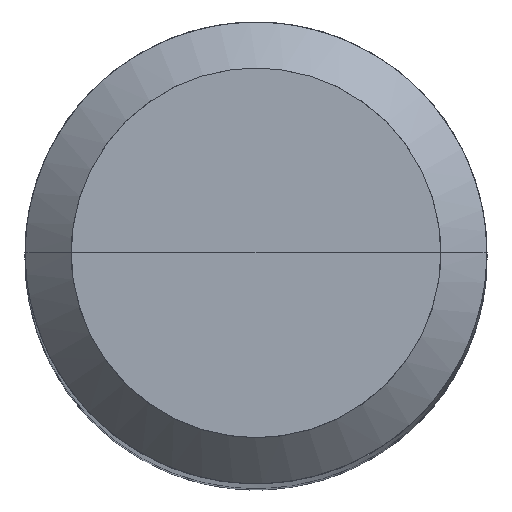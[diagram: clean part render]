
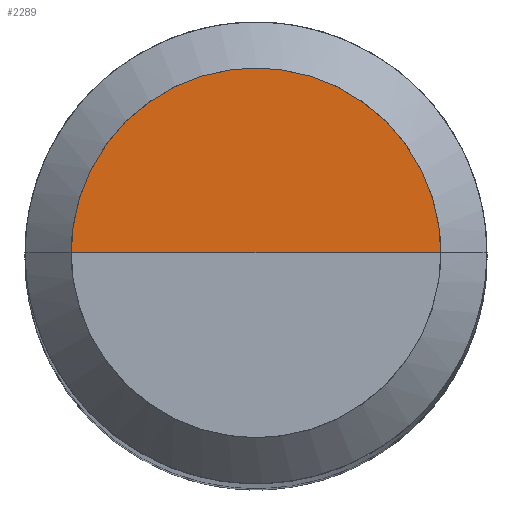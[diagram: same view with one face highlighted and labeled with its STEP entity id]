
A CAD part, top view. The second image highlights one B-rep face of the part: STEP entity #2289.
In plain terms, the highlighted free-form (B-spline) face has degree [1, 2] with [2, 5] control points.
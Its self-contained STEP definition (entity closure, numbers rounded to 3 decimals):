
#2050=CARTESIAN_POINT('',(6.4,0.0,90.0));
#2051=CARTESIAN_POINT('',(6.4,6.4,90.0));
#2052=CARTESIAN_POINT('',(0.0,6.4,90.0));
#2053=CARTESIAN_POINT('',(-6.4,6.4,90.0));
#2054=CARTESIAN_POINT('',(-6.4,0.0,90.0));
#2055=CARTESIAN_POINT('',(0.0,0.0,90.0));
#2274=(
BOUNDED_SURFACE()
B_SPLINE_SURFACE(1,2,(
(#2050,#2051,#2052,#2053,#2054),
(#2055,#2055,#2055,#2055,#2055)
), .UNSPECIFIED.,.F.,.F.,.F.)
B_SPLINE_SURFACE_WITH_KNOTS((2,2),(3,2,3),(
0.0,1.0),(
0.0,0.5,1.0), .UNSPECIFIED.)
GEOMETRIC_REPRESENTATION_ITEM()
RATIONAL_B_SPLINE_SURFACE(((1.0,0.707,1.0,0.707,1.0),
(1.0,0.707,1.0,0.707,1.0)
))
REPRESENTATION_ITEM('')
SURFACE()
);
#2275=(
BOUNDED_CURVE()
B_SPLINE_CURVE(2,(#2054,#2053,#2052,#2051,#2050),.UNSPECIFIED.,.F.,.F.)
B_SPLINE_CURVE_WITH_KNOTS((3,2,3),
(0.0,0.5,1.0),.UNSPECIFIED.)
CURVE()
GEOMETRIC_REPRESENTATION_ITEM()
RATIONAL_B_SPLINE_CURVE((1.0,0.707,1.0,0.707,1.0))
REPRESENTATION_ITEM('')
);
#2276=(
BOUNDED_CURVE()
B_SPLINE_CURVE(1,(#2050,#2055),.UNSPECIFIED.,.F.,.F.)
B_SPLINE_CURVE_WITH_KNOTS((2,2),
(0.0,1.0),.UNSPECIFIED.)
CURVE()
GEOMETRIC_REPRESENTATION_ITEM()
RATIONAL_B_SPLINE_CURVE((1.0,1.0))
REPRESENTATION_ITEM('')
);
#2277=(
BOUNDED_CURVE()
B_SPLINE_CURVE(1,(#2055,#2054),.UNSPECIFIED.,.F.,.F.)
B_SPLINE_CURVE_WITH_KNOTS((2,2),
(0.0,1.0),.UNSPECIFIED.)
CURVE()
GEOMETRIC_REPRESENTATION_ITEM()
RATIONAL_B_SPLINE_CURVE((1.0,1.0))
REPRESENTATION_ITEM('')
);
#2278=VERTEX_POINT('',#2050);
#2279=VERTEX_POINT('',#2054);
#2280=VERTEX_POINT('',#2055);
#2281=EDGE_CURVE('',#2279,#2278,#2275,.T.);
#2282=EDGE_CURVE('',#2278,#2280,#2276,.T.);
#2283=EDGE_CURVE('',#2280,#2279,#2277,.T.);
#2284=ORIENTED_EDGE('',*,*,#2281,.T.);
#2285=ORIENTED_EDGE('',*,*,#2282,.T.);
#2286=ORIENTED_EDGE('',*,*,#2283,.T.);
#2287=EDGE_LOOP('',(#2284,#2285,#2286));
#2288=FACE_OUTER_BOUND('',#2287,.T.);
#2289=ADVANCED_FACE('',(#2288),#2274,.T.);
